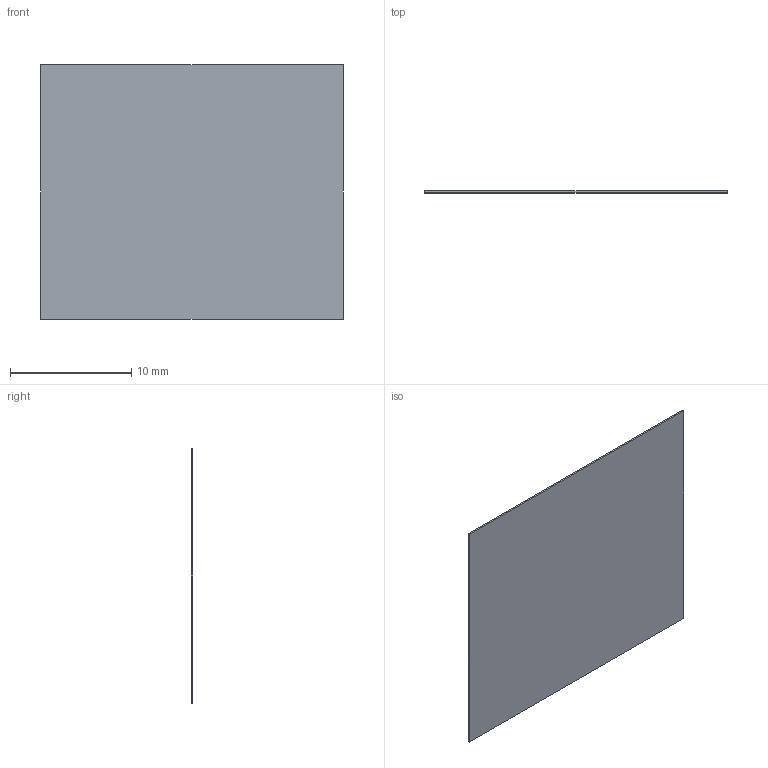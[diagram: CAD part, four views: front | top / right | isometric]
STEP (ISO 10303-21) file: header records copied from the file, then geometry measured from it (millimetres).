
FILE_DESCRIPTION(('Open CASCADE Model'),'2;1');
FILE_NAME('Open CASCADE Shape Model','2026-10-04T01:02:34',('Author'),( 'Open CASCADE'),'Open CASCADE STEP processor 8.0','Open CASCADE 8.0' ,'Unknown');
FILE_SCHEMA(('AUTOMOTIVE_DESIGN { 1 0 10303 214 1 1 1 1 }'));
Length unit declared in the file: millimetre
Products named in the file (1): Open CASCADE STEP translator 8.0 390
Bounding box: 25 x 0.15 x 21 mm (x, y, z)
Volume: 78.8 mm3; surface area: 1063.8 mm2
Topology: 1 solids, 1 shells, 6 faces, 12 edges, 8 vertices
Faces by surface type: plane 6
Entity records: 322 total; most frequent: CARTESIAN_POINT 51, DIRECTION 50, LINE 36, VECTOR 36, ORIENTED_EDGE 24, PCURVE 24, DEFINITIONAL_REPRESENTATION 24, EDGE_CURVE 12
